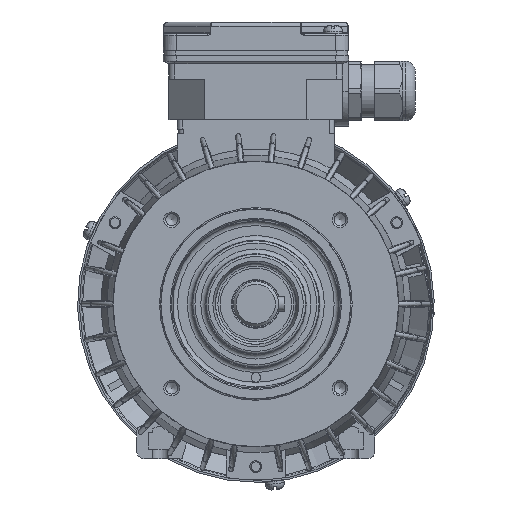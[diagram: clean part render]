
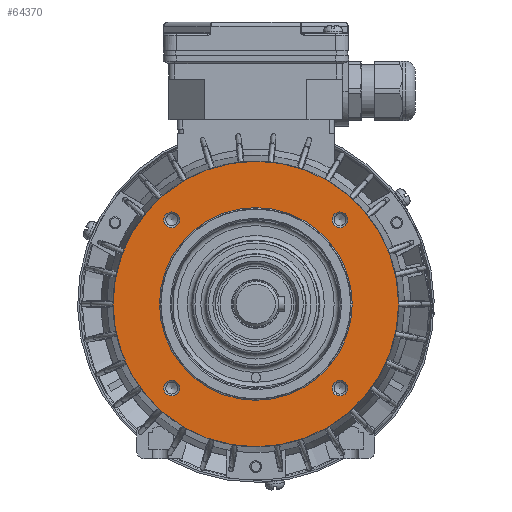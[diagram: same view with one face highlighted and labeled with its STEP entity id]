
A CAD part, left-side view. The second image highlights one B-rep face of the part: STEP entity #64370.
In plain terms, the highlighted planar face has unit normal (-1, 0, 0).
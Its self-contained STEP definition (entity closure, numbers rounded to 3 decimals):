
#20485=ORIENTED_EDGE('',*,*,#29454,.T.);
#20486=ORIENTED_EDGE('',*,*,#29455,.T.);
#20487=ORIENTED_EDGE('',*,*,#29456,.T.);
#20488=ORIENTED_EDGE('',*,*,#29457,.T.);
#20489=ORIENTED_EDGE('',*,*,#29458,.T.);
#20490=ORIENTED_EDGE('',*,*,#29380,.T.);
#29380=EDGE_CURVE('',#34758,#34758,#37508,.T.);
#29454=EDGE_CURVE('',#34771,#34771,#37544,.F.);
#29455=EDGE_CURVE('',#34772,#34772,#37545,.F.);
#29456=EDGE_CURVE('',#34773,#34773,#37546,.F.);
#29457=EDGE_CURVE('',#34774,#34774,#37547,.F.);
#29458=EDGE_CURVE('',#34775,#34775,#37548,.F.);
#34758=VERTEX_POINT('',#103062);
#34771=VERTEX_POINT('',#104691);
#34772=VERTEX_POINT('',#104693);
#34773=VERTEX_POINT('',#104695);
#34774=VERTEX_POINT('',#104697);
#34775=VERTEX_POINT('',#104699);
#37508=CIRCLE('',#68322,60.);
#37544=CIRCLE('',#68410,3.3);
#37545=CIRCLE('',#68411,3.3);
#37546=CIRCLE('',#68412,3.3);
#37547=CIRCLE('',#68413,3.3);
#37548=CIRCLE('',#68414,40.5);
#40198=EDGE_LOOP('',(#20485));
#40199=EDGE_LOOP('',(#20486));
#40200=EDGE_LOOP('',(#20487));
#40201=EDGE_LOOP('',(#20488));
#40202=EDGE_LOOP('',(#20489));
#40203=EDGE_LOOP('',(#20490));
#43330=FACE_BOUND('',#40198,.T.);
#43331=FACE_BOUND('',#40199,.T.);
#43332=FACE_BOUND('',#40200,.T.);
#43333=FACE_BOUND('',#40201,.T.);
#43334=FACE_BOUND('',#40202,.T.);
#43335=FACE_BOUND('',#40203,.T.);
#45182=PLANE('',#68409);
#64370=ADVANCED_FACE('',(#43330,#43331,#43332,#43333,#43334,#43335),#45182,
 .T.);
#68322=AXIS2_PLACEMENT_3D('',#103061,#78716,#78717);
#68409=AXIS2_PLACEMENT_3D('',#104689,#78914,#78915);
#68410=AXIS2_PLACEMENT_3D('',#104690,#78916,#78917);
#68411=AXIS2_PLACEMENT_3D('',#104692,#78918,#78919);
#68412=AXIS2_PLACEMENT_3D('',#104694,#78920,#78921);
#68413=AXIS2_PLACEMENT_3D('',#104696,#78922,#78923);
#68414=AXIS2_PLACEMENT_3D('',#104698,#78924,#78925);
#78716=DIRECTION('',(-1.,0.,0.));
#78717=DIRECTION('',(0.,0.,-1.));
#78914=DIRECTION('',(-1.,0.,0.));
#78915=DIRECTION('',(0.,0.,-1.));
#78916=DIRECTION('',(-1.,0.,0.));
#78917=DIRECTION('',(0.,0.,-1.));
#78918=DIRECTION('',(-1.,0.,0.));
#78919=DIRECTION('',(0.,0.,-1.));
#78920=DIRECTION('',(-1.,0.,0.));
#78921=DIRECTION('',(0.,0.,-1.));
#78922=DIRECTION('',(-1.,0.,0.));
#78923=DIRECTION('',(0.,0.,-1.));
#78924=DIRECTION('',(-1.,0.,0.));
#78925=DIRECTION('',(0.,0.,-1.));
#103061=CARTESIAN_POINT('',(-44.3,0.,0.));
#103062=CARTESIAN_POINT('',(-44.3,0.,-60.));
#104689=CARTESIAN_POINT('',(-44.3,0.,40.));
#104690=CARTESIAN_POINT('',(-44.3,35.355,-35.355));
#104691=CARTESIAN_POINT('',(-44.3,35.355,-38.655));
#104692=CARTESIAN_POINT('',(-44.3,-35.355,-35.355));
#104693=CARTESIAN_POINT('',(-44.3,-35.355,-38.655));
#104694=CARTESIAN_POINT('',(-44.3,-35.355,35.355));
#104695=CARTESIAN_POINT('',(-44.3,-35.355,32.055));
#104696=CARTESIAN_POINT('',(-44.3,35.355,35.355));
#104697=CARTESIAN_POINT('',(-44.3,35.355,32.055));
#104698=CARTESIAN_POINT('',(-44.3,0.,0.));
#104699=CARTESIAN_POINT('',(-44.3,0.,-40.5));
